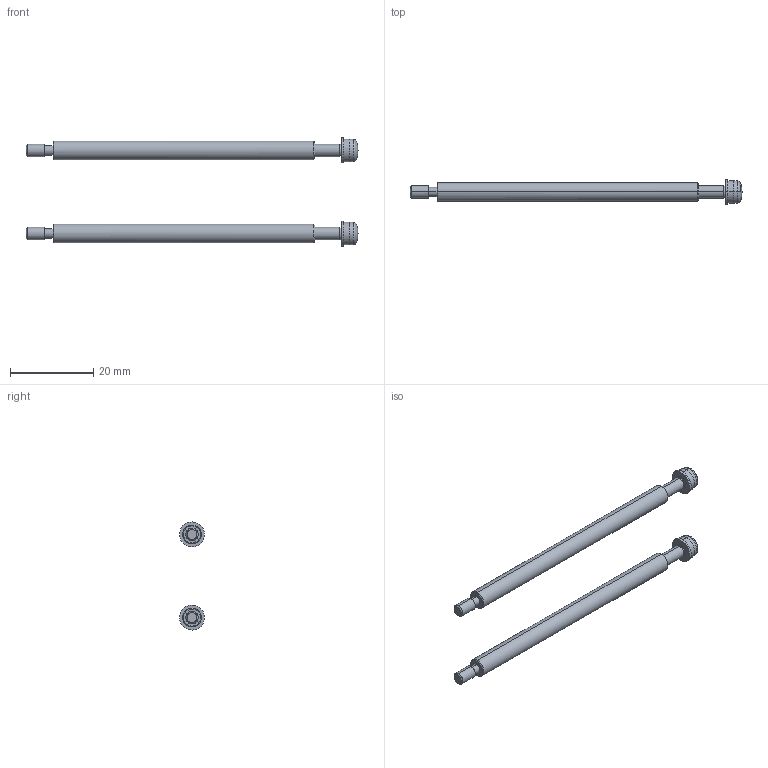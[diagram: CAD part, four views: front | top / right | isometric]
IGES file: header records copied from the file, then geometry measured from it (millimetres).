
Start section: ------------------------------------------------------------------------
Bounding box: 79.9 x 5.99 x 26 mm (x, y, z)
Volume: 2270.9 mm3; surface area: 2646.7 mm2
Topology: 4 solids, 4 shells, 94 faces, 188 edges, 108 vertices
Faces by surface type: bspline 94
